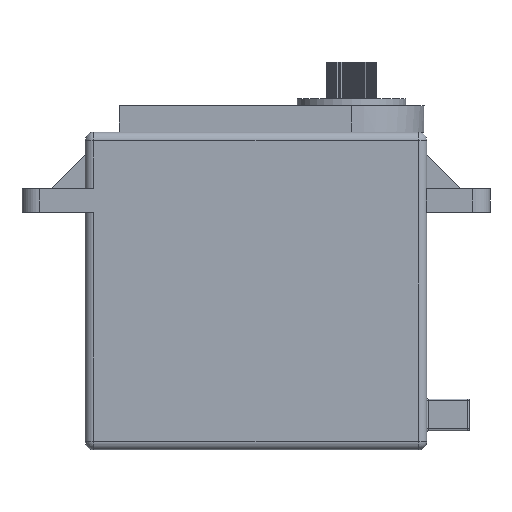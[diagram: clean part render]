
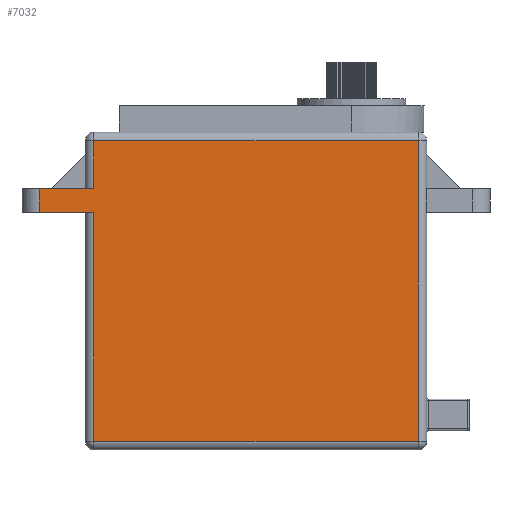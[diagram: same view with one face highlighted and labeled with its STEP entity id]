
A CAD part, front view. The second image highlights one B-rep face of the part: STEP entity #7032.
In plain terms, the highlighted planar face has unit normal (0, -1, 0).
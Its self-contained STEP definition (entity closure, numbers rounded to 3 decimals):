
#48 = VECTOR ( 'NONE', #2125, 1000. ) ;
#230 = DIRECTION ( 'NONE',  ( 0., 0., -1. ) ) ;
#287 = LINE ( 'NONE', #4714, #6517 ) ;
#317 = CARTESIAN_POINT ( 'NONE',  ( -20., -10., 36.2 ) ) ;
#320 = AXIS2_PLACEMENT_3D ( 'NONE', #2220, #5818, #6519 ) ;
#416 = CARTESIAN_POINT ( 'NONE',  ( 19., -10., 37.2 ) ) ;
#623 = CARTESIAN_POINT ( 'NONE',  ( -19., -10., 1. ) ) ;
#965 = DIRECTION ( 'NONE',  ( 1., 0., 0. ) ) ;
#1207 = VERTEX_POINT ( 'NONE', #10330 ) ;
#1649 = VERTEX_POINT ( 'NONE', #6343 ) ;
#1799 = CARTESIAN_POINT ( 'NONE',  ( -27.4, -10., 27.8 ) ) ;
#1931 = VECTOR ( 'NONE', #4471, 1000. ) ;
#2125 = DIRECTION ( 'NONE',  ( 0., 0., 1. ) ) ;
#2175 = EDGE_CURVE ( 'NONE', #1207, #3069, #4573, .T. ) ;
#2220 = CARTESIAN_POINT ( 'NONE',  ( -20., -10., 37.2 ) ) ;
#2676 = CARTESIAN_POINT ( 'NONE',  ( -20., -10., 1. ) ) ;
#2682 = LINE ( 'NONE', #1799, #9811 ) ;
#3069 = VERTEX_POINT ( 'NONE', #623 ) ;
#3166 = EDGE_CURVE ( 'NONE', #10237, #1207, #2682, .T. ) ;
#3492 = ORIENTED_EDGE ( 'NONE', *, *, #4263, .T. ) ;
#3534 = CARTESIAN_POINT ( 'NONE',  ( -19., -10., 30.6 ) ) ;
#3745 = LINE ( 'NONE', #317, #11219 ) ;
#4116 = EDGE_CURVE ( 'NONE', #3069, #4145, #7030, .T. ) ;
#4145 = VERTEX_POINT ( 'NONE', #7905 ) ;
#4254 = CARTESIAN_POINT ( 'NONE',  ( -25.4, -10., 30.6 ) ) ;
#4263 = EDGE_CURVE ( 'NONE', #11087, #1649, #3745, .T. ) ;
#4471 = DIRECTION ( 'NONE',  ( 0., 0., -1. ) ) ;
#4573 = LINE ( 'NONE', #7903, #6958 ) ;
#4606 = EDGE_LOOP ( 'NONE', ( #9430, #8763, #4702, #10777, #8703, #5649, #5185, #3492 ) ) ;
#4702 = ORIENTED_EDGE ( 'NONE', *, *, #9253, .T. ) ;
#4714 = CARTESIAN_POINT ( 'NONE',  ( -19., -10., 37.2 ) ) ;
#4777 = EDGE_CURVE ( 'NONE', #1649, #7948, #287, .T. ) ;
#4881 = FACE_OUTER_BOUND ( 'NONE', #4606, .T. ) ;
#5185 = ORIENTED_EDGE ( 'NONE', *, *, #8613, .T. ) ;
#5213 = CARTESIAN_POINT ( 'NONE',  ( -27.4, -10., 30.6 ) ) ;
#5568 = CARTESIAN_POINT ( 'NONE',  ( 19., -10., 36.2 ) ) ;
#5572 = LINE ( 'NONE', #8041, #1931 ) ;
#5649 = ORIENTED_EDGE ( 'NONE', *, *, #4116, .T. ) ;
#5678 = DIRECTION ( 'NONE',  ( -1., 0., 0. ) ) ;
#5818 = DIRECTION ( 'NONE',  ( 0., 1., 0. ) ) ;
#6208 = DIRECTION ( 'NONE',  ( 0., 0., -1. ) ) ;
#6343 = CARTESIAN_POINT ( 'NONE',  ( -19., -10., 36.2 ) ) ;
#6360 = VERTEX_POINT ( 'NONE', #4254 ) ;
#6517 = VECTOR ( 'NONE', #230, 1000. ) ;
#6519 = DIRECTION ( 'NONE',  ( 0., 0., 1. ) ) ;
#6595 = LINE ( 'NONE', #416, #48 ) ;
#6958 = VECTOR ( 'NONE', #6208, 1000. ) ;
#6970 = DIRECTION ( 'NONE',  ( 1., 0., 0. ) ) ;
#7030 = LINE ( 'NONE', #2676, #11401 ) ;
#7032 = ADVANCED_FACE ( 'NONE', ( #4881 ), #10287, .F. ) ;
#7903 = CARTESIAN_POINT ( 'NONE',  ( -19., -10., 37.2 ) ) ;
#7905 = CARTESIAN_POINT ( 'NONE',  ( 19., -10., 1. ) ) ;
#7948 = VERTEX_POINT ( 'NONE', #3534 ) ;
#8041 = CARTESIAN_POINT ( 'NONE',  ( -25.4, -10., 27.8 ) ) ;
#8613 = EDGE_CURVE ( 'NONE', #4145, #11087, #6595, .T. ) ;
#8703 = ORIENTED_EDGE ( 'NONE', *, *, #2175, .T. ) ;
#8763 = ORIENTED_EDGE ( 'NONE', *, *, #11645, .F. ) ;
#9253 = EDGE_CURVE ( 'NONE', #6360, #10237, #5572, .T. ) ;
#9296 = VECTOR ( 'NONE', #6970, 1000. ) ;
#9430 = ORIENTED_EDGE ( 'NONE', *, *, #4777, .T. ) ;
#9795 = DIRECTION ( 'NONE',  ( 1., 0., 0. ) ) ;
#9811 = VECTOR ( 'NONE', #9795, 1000. ) ;
#10237 = VERTEX_POINT ( 'NONE', #10411 ) ;
#10287 = PLANE ( 'NONE',  #320 ) ;
#10330 = CARTESIAN_POINT ( 'NONE',  ( -19., -10., 27.8 ) ) ;
#10411 = CARTESIAN_POINT ( 'NONE',  ( -25.4, -10., 27.8 ) ) ;
#10777 = ORIENTED_EDGE ( 'NONE', *, *, #3166, .T. ) ;
#11087 = VERTEX_POINT ( 'NONE', #5568 ) ;
#11219 = VECTOR ( 'NONE', #5678, 1000. ) ;
#11396 = LINE ( 'NONE', #5213, #9296 ) ;
#11401 = VECTOR ( 'NONE', #965, 1000. ) ;
#11645 = EDGE_CURVE ( 'NONE', #6360, #7948, #11396, .T. ) ;
